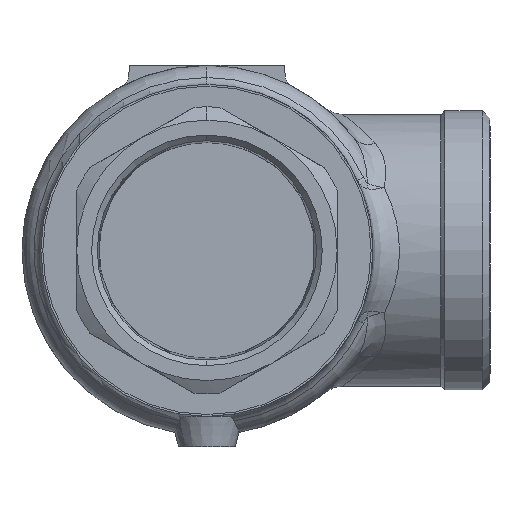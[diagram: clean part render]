
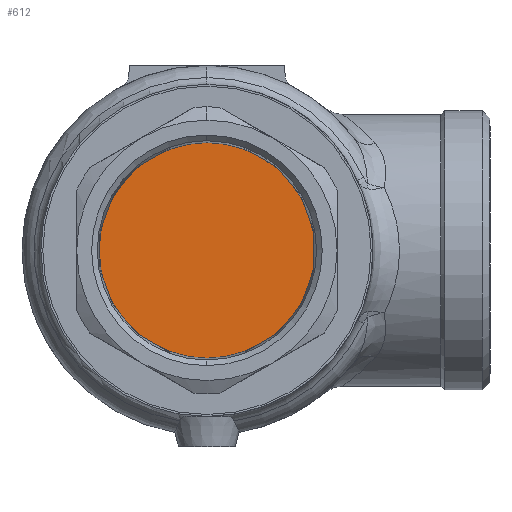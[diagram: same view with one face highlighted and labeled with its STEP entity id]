
A CAD part, front view. The second image highlights one B-rep face of the part: STEP entity #612.
In plain terms, the highlighted planar face has unit normal (0, -1, 0).
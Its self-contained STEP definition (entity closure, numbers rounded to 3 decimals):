
#147 = EDGE_LOOP ( 'NONE', ( #1545, #8986 ) ) ;
#612 = ADVANCED_FACE ( 'NONE', ( #7143 ), #1291, .F. ) ;
#1278 = CARTESIAN_POINT ( 'NONE',  ( 0., -60.5, 0. ) ) ;
#1291 = PLANE ( 'NONE',  #6650 ) ;
#1439 = EDGE_CURVE ( 'NONE', #2363, #6028, #6334, .T. ) ;
#1545 = ORIENTED_EDGE ( 'NONE', *, *, #1439, .F. ) ;
#1991 = CARTESIAN_POINT ( 'NONE',  ( 0., -60.5, 0. ) ) ;
#2363 = VERTEX_POINT ( 'NONE', #3701 ) ;
#2857 = AXIS2_PLACEMENT_3D ( 'NONE', #1991, #7069, #7121 ) ;
#3408 = DIRECTION ( 'NONE',  ( 0., 0., 1. ) ) ;
#3701 = CARTESIAN_POINT ( 'NONE',  ( 0., -60.5, -28.55 ) ) ;
#3824 = AXIS2_PLACEMENT_3D ( 'NONE', #1278, #8527, #3408 ) ;
#4196 = DIRECTION ( 'NONE',  ( 0., 1., 0. ) ) ;
#6028 = VERTEX_POINT ( 'NONE', #7534 ) ;
#6334 = CIRCLE ( 'NONE', #2857, 28.55 ) ;
#6650 = AXIS2_PLACEMENT_3D ( 'NONE', #7232, #4196, #8591 ) ;
#7069 = DIRECTION ( 'NONE',  ( 0., 1., 0. ) ) ;
#7079 = EDGE_CURVE ( 'NONE', #6028, #2363, #8511, .T. ) ;
#7121 = DIRECTION ( 'NONE',  ( 0., 0., 1. ) ) ;
#7143 = FACE_OUTER_BOUND ( 'NONE', #147, .T. ) ;
#7232 = CARTESIAN_POINT ( 'NONE',  ( -28.55, -60.5, 0. ) ) ;
#7534 = CARTESIAN_POINT ( 'NONE',  ( 0., -60.5, 28.55 ) ) ;
#8511 = CIRCLE ( 'NONE', #3824, 28.55 ) ;
#8527 = DIRECTION ( 'NONE',  ( 0., 1., 0. ) ) ;
#8591 = DIRECTION ( 'NONE',  ( 0., 0., 1. ) ) ;
#8986 = ORIENTED_EDGE ( 'NONE', *, *, #7079, .F. ) ;
